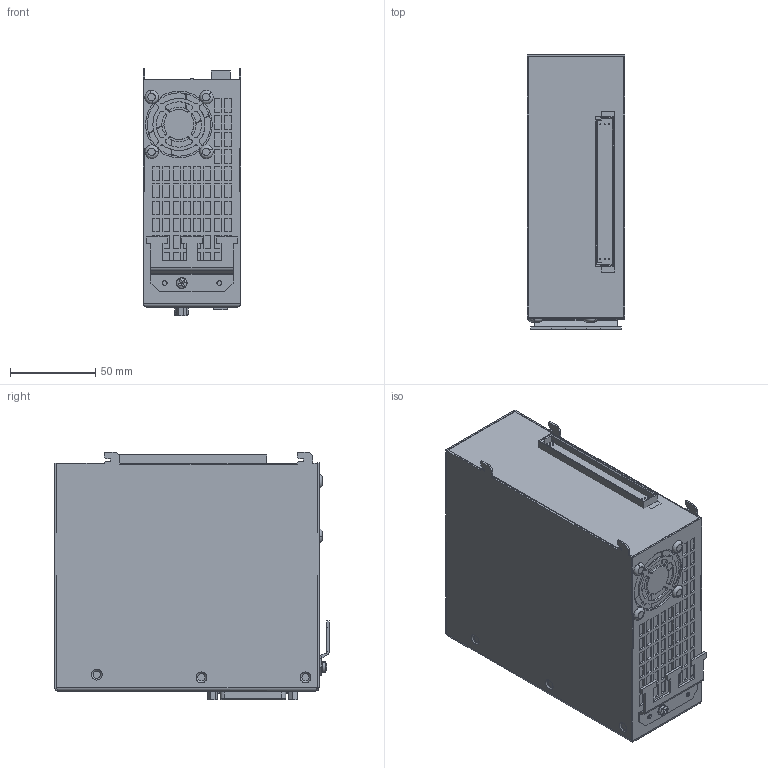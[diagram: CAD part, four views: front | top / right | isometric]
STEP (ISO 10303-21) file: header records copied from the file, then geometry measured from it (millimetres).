
FILE_DESCRIPTION (( 'STEP AP214' ), '1' );
FILE_NAME ('MDD111-1.STEP', '2013-12-02T10:45:40', ( 'gianik' ), ( '' ), 'SwSTEP 2.0', 'SolidWorks 2013', '' );
FILE_SCHEMA (( 'AUTOMOTIVE_DESIGN' ));
Length unit declared in the file: millimetre
Products named in the file (1): MDD111-1
Bounding box: 57.3 x 160.6 x 144.8 mm (x, y, z)
Surface area: 227365.9 mm2 (no closed solid volume)
Topology: 0 solids, 70 shells, 1478 faces, 5466 edges, 3974 vertices
Faces by surface type: plane 1023, cylinder 300, cone 86, bspline 44, torus 24, sphere 1
Entity records: 77796 total; most frequent: CARTESIAN_POINT 15759, ORIENTED_EDGE 9098, DIRECTION 8781, EDGE_CURVE 5461, VERTEX_POINT 3972, VECTOR 3765, LINE 3765, AXIS2_PLACEMENT_3D 2508
